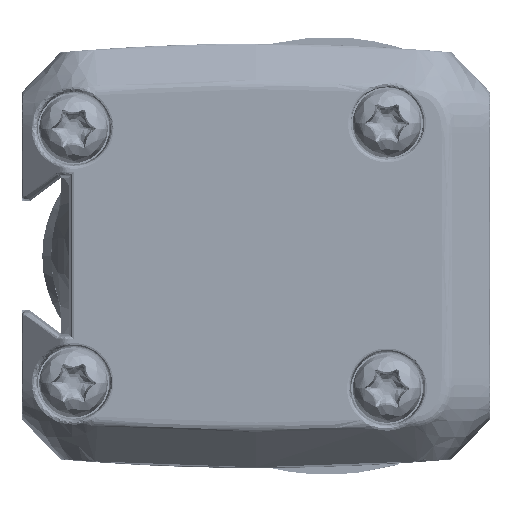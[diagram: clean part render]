
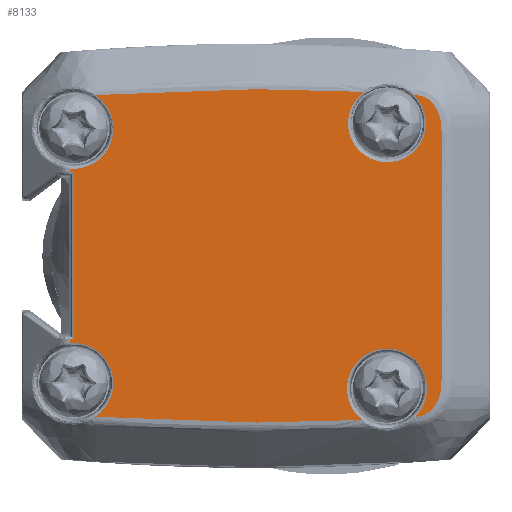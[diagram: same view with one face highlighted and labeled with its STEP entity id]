
A CAD part, left-side view. The second image highlights one B-rep face of the part: STEP entity #8133.
In plain terms, the highlighted planar face has unit normal (-1, 0, 0) as drawn and (0, 0, 1) by its records, which use the part's own axes.
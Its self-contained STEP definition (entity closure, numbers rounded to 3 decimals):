
#3378=CARTESIAN_POINT('',(-10.302,9.807,254.927));
#3394=CARTESIAN_POINT('',(7.86,-12.392,254.927));
#3395=CARTESIAN_POINT('',(8.026,-12.393,254.927));
#3396=CARTESIAN_POINT('',(8.359,-12.386,254.927));
#3397=CARTESIAN_POINT('',(8.856,-12.313,254.927));
#3398=CARTESIAN_POINT('',(9.336,-12.147,254.927));
#3399=CARTESIAN_POINT('',(9.737,-11.891,254.927));
#3400=CARTESIAN_POINT('',(10.043,-11.567,254.927));
#3401=CARTESIAN_POINT('',(10.238,-11.201,254.927));
#3402=CARTESIAN_POINT('',(10.3,-10.867,254.927));
#3403=CARTESIAN_POINT('',(10.314,-10.67,254.927));
#3404=CARTESIAN_POINT('',(10.318,-10.612,254.927));
#3406=DIRECTION('',(1.,0.,0.));
#3407=VECTOR('',#3406,7.86);
#3408=CARTESIAN_POINT('',(0.,-12.392,
254.927));
#3409=LINE('',#3408,#3407);
#3410=CARTESIAN_POINT('',(-10.311,-10.714,
254.927));
#3411=CARTESIAN_POINT('',(-10.309,-10.739,
254.927));
#3412=CARTESIAN_POINT('',(-10.293,-10.901,
254.927));
#3413=CARTESIAN_POINT('',(-10.238,-11.201,
254.927));
#3414=CARTESIAN_POINT('',(-10.043,-11.567,
254.927));
#3415=CARTESIAN_POINT('',(-9.737,-11.891,
254.927));
#3416=CARTESIAN_POINT('',(-9.336,-12.147,
254.927));
#3417=CARTESIAN_POINT('',(-8.856,-12.313,
254.927));
#3418=CARTESIAN_POINT('',(-8.359,-12.386,
254.927));
#3419=CARTESIAN_POINT('',(-8.026,-12.393,
254.927));
#3420=CARTESIAN_POINT('',(-7.86,-12.392,
254.927));
#3422=CARTESIAN_POINT('',(-10.685,-0.495,
254.927));
#3423=CARTESIAN_POINT('',(-10.685,-2.768,
254.927));
#3424=CARTESIAN_POINT('',(-10.629,-5.041,
254.927));
#3425=CARTESIAN_POINT('',(-10.518,-7.31,
254.927));
#3427=CARTESIAN_POINT('',(-10.318,9.614,254.927));
#3428=CARTESIAN_POINT('',(-10.563,6.251,254.927));
#3429=CARTESIAN_POINT('',(-10.685,2.878,254.927));
#3430=CARTESIAN_POINT('',(-10.685,-0.495,
254.927));
#3432=CARTESIAN_POINT('',(-10.302,9.807,254.927));
#3433=CARTESIAN_POINT('',(-10.303,9.804,254.927));
#3434=CARTESIAN_POINT('',(-10.31,9.739,254.927));
#3435=CARTESIAN_POINT('',(-10.314,9.675,254.927));
#3436=CARTESIAN_POINT('',(-10.318,9.614,254.927));
#3438=DIRECTION('',(1.,0.,0.));
#3439=VECTOR('',#3438,0.245);
#3440=CARTESIAN_POINT('',(-5.591,11.401,254.927));
#3441=LINE('',#3440,#3439);
#3442=DIRECTION('',(0.,-1.,0.));
#3443=VECTOR('',#3442,0.242);
#3444=CARTESIAN_POINT('',(-5.346,11.401,254.927));
#3445=LINE('',#3444,#3443);
#3446=DIRECTION('',(1.,0.,0.));
#3447=VECTOR('',#3446,10.692);
#3448=CARTESIAN_POINT('',(-5.346,11.159,254.927));
#3449=LINE('',#3448,#3447);
#3450=DIRECTION('',(0.,-1.,0.));
#3451=VECTOR('',#3450,0.242);
#3452=CARTESIAN_POINT('',(5.346,11.401,254.927));
#3453=LINE('',#3452,#3451);
#3454=DIRECTION('',(1.,0.,0.));
#3455=VECTOR('',#3454,0.245);
#3456=CARTESIAN_POINT('',(5.346,11.401,254.927));
#3457=LINE('',#3456,#3455);
#3458=CARTESIAN_POINT('',(10.318,9.614,254.927));
#3459=CARTESIAN_POINT('',(10.314,9.675,254.927));
#3460=CARTESIAN_POINT('',(10.31,9.739,254.927));
#3461=CARTESIAN_POINT('',(10.303,9.804,254.927));
#3462=CARTESIAN_POINT('',(10.302,9.807,254.927));
#3464=CARTESIAN_POINT('',(10.685,-0.495,
254.927));
#3465=CARTESIAN_POINT('',(10.685,2.878,254.927));
#3466=CARTESIAN_POINT('',(10.563,6.251,254.927));
#3467=CARTESIAN_POINT('',(10.318,9.614,254.927));
#3469=CARTESIAN_POINT('',(10.513,-7.413,254.927));
#3470=CARTESIAN_POINT('',(10.628,-5.109,254.927));
#3471=CARTESIAN_POINT('',(10.685,-2.802,254.927));
#3472=CARTESIAN_POINT('',(10.685,-0.495,
254.927));
#3479=CARTESIAN_POINT('',(8.5,-8.895,254.927));
#3480=DIRECTION('',(0.,0.,-1.));
#3481=DIRECTION('',(0.727,-0.687,0.));
#3482=AXIS2_PLACEMENT_3D('',#3479,#3480,#3481);
#3518=CARTESIAN_POINT('',(10.513,-7.413,254.927));
#3532=CARTESIAN_POINT('',(10.685,-0.495,
254.927));
#3573=CARTESIAN_POINT('',(10.302,9.807,254.927));
#3575=CARTESIAN_POINT('',(10.318,9.614,254.927));
#3591=CARTESIAN_POINT('',(8.15,11.204,254.927));
#3592=DIRECTION('',(0.,0.,-1.));
#3593=DIRECTION('',(0.839,-0.545,0.));
#3594=AXIS2_PLACEMENT_3D('',#3591,#3592,#3593);
#3617=CARTESIAN_POINT('',(-5.591,11.401,254.927));
#3625=CARTESIAN_POINT('',(-5.346,11.401,254.927));
#3627=CARTESIAN_POINT('',(5.591,11.401,254.927));
#3646=CARTESIAN_POINT('',(5.346,11.401,254.927));
#3662=CARTESIAN_POINT('',(-8.15,11.204,254.927));
#3663=DIRECTION('',(0.,0.,-1.));
#3664=DIRECTION('',(0.997,0.076,0.));
#3665=AXIS2_PLACEMENT_3D('',#3662,#3663,#3664);
#4272=CARTESIAN_POINT('',(-10.318,9.614,254.927));
#4283=CARTESIAN_POINT('',(-10.685,-0.495,
254.927));
#4310=CARTESIAN_POINT('',(-10.518,-7.31,
254.927));
#5022=CARTESIAN_POINT('',(10.318,-10.612,254.927));
#5031=CARTESIAN_POINT('',(7.86,-12.392,254.927));
#5795=CARTESIAN_POINT('',(-7.86,-12.392,
254.927));
#5802=DIRECTION('',(-1.,0.,0.));
#5803=VECTOR('',#5802,7.86);
#5804=CARTESIAN_POINT('',(0.,-12.392,
254.927));
#5805=LINE('',#5804,#5803);
#5844=CARTESIAN_POINT('',(-8.5,-8.895,
254.927));
#5845=DIRECTION('',(0.,0.,-1.));
#5846=DIRECTION('',(-0.786,0.618,0.));
#5847=AXIS2_PLACEMENT_3D('',#5844,#5845,#5846);
#6179=VERTEX_POINT('',#3532);
#6181=VERTEX_POINT('',#3575);
#6182=VERTEX_POINT('',#5031);
#6183=CARTESIAN_POINT('',(0.,-12.392,
254.927));
#6184=VERTEX_POINT('',#6183);
#6239=VERTEX_POINT('',#4283);
#6241=VERTEX_POINT('',#4272);
#6242=VERTEX_POINT('',#5795);
#6356=VERTEX_POINT('',#3518);
#6365=VERTEX_POINT('',#5022);
#6389=VERTEX_POINT('',#3410);
#6402=VERTEX_POINT('',#3378);
#6412=VERTEX_POINT('',#3617);
#6420=VERTEX_POINT('',#3627);
#6429=VERTEX_POINT('',#3573);
#6440=VERTEX_POINT('',#4310);
#6480=VERTEX_POINT('',#3625);
#6481=CARTESIAN_POINT('',(-5.346,11.159,254.927));
#6482=VERTEX_POINT('',#6481);
#6485=CARTESIAN_POINT('',(5.346,11.159,254.927));
#6486=VERTEX_POINT('',#6485);
#6497=VERTEX_POINT('',#3646);
#8089=CARTESIAN_POINT('',(-14.142,14.804,254.927));
#8090=DIRECTION('',(0.,0.,1.));
#8091=DIRECTION('',(1.,0.,0.));
#8092=AXIS2_PLACEMENT_3D('',#8089,#8090,#8091);
#8093=PLANE('',#8092);
#8095=ORIENTED_EDGE('',*,*,#8094,.F.);
#8097=ORIENTED_EDGE('',*,*,#8096,.F.);
#8099=ORIENTED_EDGE('',*,*,#8098,.F.);
#8101=ORIENTED_EDGE('',*,*,#8100,.T.);
#8103=ORIENTED_EDGE('',*,*,#8102,.F.);
#8105=ORIENTED_EDGE('',*,*,#8104,.F.);
#8107=ORIENTED_EDGE('',*,*,#8106,.F.);
#8109=ORIENTED_EDGE('',*,*,#8108,.F.);
#8110=ORIENTED_EDGE('',*,*,#8081,.F.);
#8112=ORIENTED_EDGE('',*,*,#8111,.F.);
#8114=ORIENTED_EDGE('',*,*,#8113,.T.);
#8116=ORIENTED_EDGE('',*,*,#8115,.T.);
#8118=ORIENTED_EDGE('',*,*,#8117,.T.);
#8120=ORIENTED_EDGE('',*,*,#8119,.F.);
#8122=ORIENTED_EDGE('',*,*,#8121,.T.);
#8124=ORIENTED_EDGE('',*,*,#8123,.F.);
#8126=ORIENTED_EDGE('',*,*,#8125,.F.);
#8128=ORIENTED_EDGE('',*,*,#8127,.F.);
#8130=ORIENTED_EDGE('',*,*,#8129,.F.);
#8131=EDGE_LOOP('',(#8095,#8097,#8099,#8101,#8103,#8105,#8107,#8109,#8110,#8112,
#8114,#8116,#8118,#8120,#8122,#8124,#8126,#8128,#8130));
#8132=FACE_OUTER_BOUND('',#8131,.F.);
#8133=ADVANCED_FACE('',(#8132),#8093,.T.);
#3405=B_SPLINE_CURVE_WITH_KNOTS('',3,(#3394,#3395,#3396,#3397,#3398,#3399,#3400,
#3401,#3402,#3403,#3404),.UNSPECIFIED.,.F.,.F.,(4,1,1,1,1,1,1,1,4),(0.,
0.149,0.299,0.449,0.599,
0.716,0.833,0.95,1.),.UNSPECIFIED.);
#3421=B_SPLINE_CURVE_WITH_KNOTS('',3,(#3410,#3411,#3412,#3413,#3414,#3415,#3416,
#3417,#3418,#3419,#3420),.UNSPECIFIED.,.F.,.F.,(4,1,1,1,1,1,1,1,4),(0.,
0.021,0.142,0.262,0.383,
0.537,0.692,0.847,1.),.UNSPECIFIED.);
#3426=B_SPLINE_CURVE_WITH_KNOTS('',3,(#3422,#3423,#3424,#3425),.UNSPECIFIED.,
.F.,.F.,(4,4),(0.,1.),.UNSPECIFIED.);
#3431=B_SPLINE_CURVE_WITH_KNOTS('',3,(#3427,#3428,#3429,#3430),.UNSPECIFIED.,
.F.,.F.,(4,4),(0.,1.),.UNSPECIFIED.);
#3437=B_SPLINE_CURVE_WITH_KNOTS('',3,(#3432,#3433,#3434,#3435,#3436),
.UNSPECIFIED.,.F.,.F.,(4,1,4),(0.,0.053,1.),.UNSPECIFIED.);
#3463=B_SPLINE_CURVE_WITH_KNOTS('',3,(#3458,#3459,#3460,#3461,#3462),
.UNSPECIFIED.,.F.,.F.,(4,1,4),(0.,0.947,1.),.UNSPECIFIED.);
#3468=B_SPLINE_CURVE_WITH_KNOTS('',3,(#3464,#3465,#3466,#3467),.UNSPECIFIED.,
.F.,.F.,(4,4),(0.,1.),.UNSPECIFIED.);
#3473=B_SPLINE_CURVE_WITH_KNOTS('',3,(#3469,#3470,#3471,#3472),.UNSPECIFIED.,
.F.,.F.,(4,4),(0.,1.),.UNSPECIFIED.);
#3483=CIRCLE('',#3482,2.5);
#3595=CIRCLE('',#3594,2.566);
#3666=CIRCLE('',#3665,2.566);
#5848=CIRCLE('',#5847,2.566);
#8081=EDGE_CURVE('',#6402,#6241,#3437,.T.);
#8094=EDGE_CURVE('',#6365,#6356,#3483,.T.);
#8096=EDGE_CURVE('',#6182,#6365,#3405,.T.);
#8098=EDGE_CURVE('',#6184,#6182,#3409,.T.);
#8100=EDGE_CURVE('',#6184,#6242,#5805,.T.);
#8102=EDGE_CURVE('',#6389,#6242,#3421,.T.);
#8104=EDGE_CURVE('',#6440,#6389,#5848,.T.);
#8106=EDGE_CURVE('',#6239,#6440,#3426,.T.);
#8108=EDGE_CURVE('',#6241,#6239,#3431,.T.);
#8111=EDGE_CURVE('',#6412,#6402,#3666,.T.);
#8113=EDGE_CURVE('',#6412,#6480,#3441,.T.);
#8115=EDGE_CURVE('',#6480,#6482,#3445,.T.);
#8117=EDGE_CURVE('',#6482,#6486,#3449,.T.);
#8119=EDGE_CURVE('',#6497,#6486,#3453,.T.);
#8121=EDGE_CURVE('',#6497,#6420,#3457,.T.);
#8123=EDGE_CURVE('',#6429,#6420,#3595,.T.);
#8125=EDGE_CURVE('',#6181,#6429,#3463,.T.);
#8127=EDGE_CURVE('',#6179,#6181,#3468,.T.);
#8129=EDGE_CURVE('',#6356,#6179,#3473,.T.);
